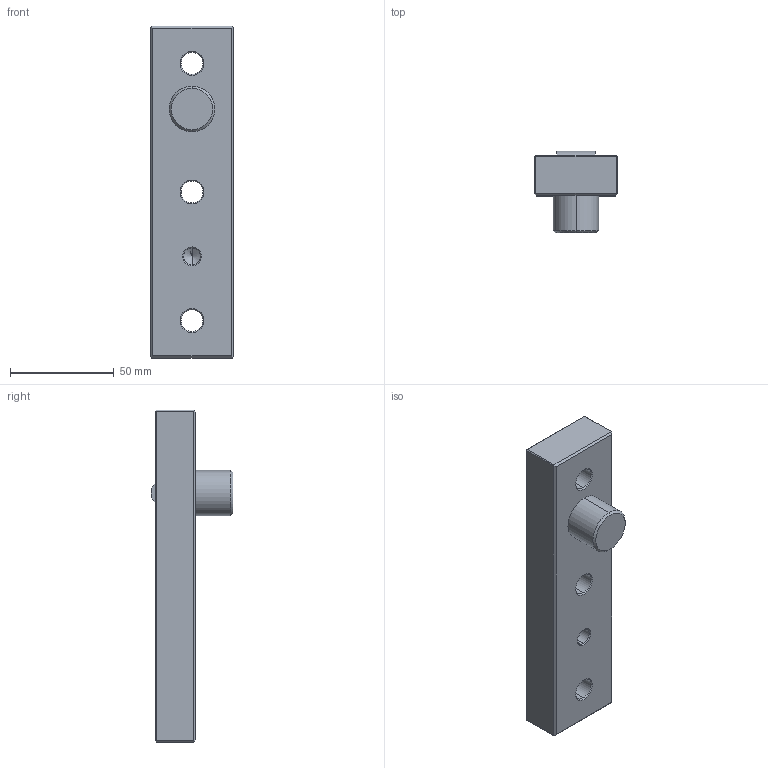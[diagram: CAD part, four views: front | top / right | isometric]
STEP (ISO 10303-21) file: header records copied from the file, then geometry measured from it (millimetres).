
FILE_DESCRIPTION (( 'STEP AP203' ), '1' );
FILE_NAME ('PRI40160.STEP', '2010-11-03T10:09:49', ( ' ' ), ( ' ' ), 'SwSTEP 2.0', 'SolidWorks 2005204', '' );
FILE_SCHEMA (( 'CONFIG_CONTROL_DESIGN' ));
Length unit declared in the file: millimetre
Products named in the file (1): PRI40160
Bounding box: 40 x 39.5 x 160 mm (x, y, z)
Volume: 121262 mm3; surface area: 23830.6 mm2
Topology: 1 solids, 1 shells, 63 faces, 138 edges, 81 vertices
Faces by surface type: plane 28, cone 18, cylinder 17
Entity records: 1777 total; most frequent: DIRECTION 314, CARTESIAN_POINT 281, ORIENTED_EDGE 272, EDGE_CURVE 136, AXIS2_PLACEMENT_3D 114, VECTOR 86, LINE 86, VERTEX_POINT 81
